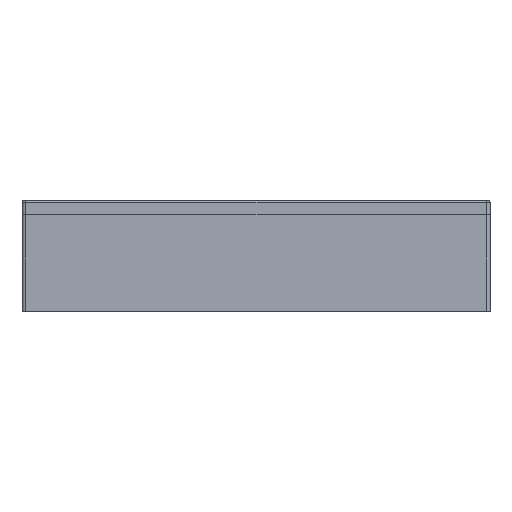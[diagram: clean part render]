
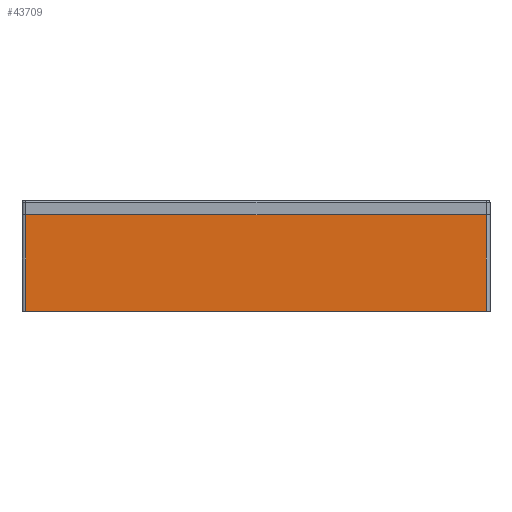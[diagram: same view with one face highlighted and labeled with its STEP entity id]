
A CAD part, left-side view. The second image highlights one B-rep face of the part: STEP entity #43709.
In plain terms, the highlighted planar face has unit normal (-1, 0, 0).
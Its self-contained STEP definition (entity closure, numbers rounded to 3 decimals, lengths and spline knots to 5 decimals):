
#2995=LINE('',#68705,#7267);
#3132=LINE('',#68996,#7404);
#3136=LINE('',#69007,#7408);
#3137=LINE('',#69008,#7409);
#7267=VECTOR('',#56080,1.);
#7404=VECTOR('',#56305,1.);
#7408=VECTOR('',#56317,1.);
#7409=VECTOR('',#56318,1.);
#16933=ORIENTED_EDGE('',*,*,#25211,.T.);
#16934=ORIENTED_EDGE('',*,*,#25217,.T.);
#16935=ORIENTED_EDGE('',*,*,#25067,.F.);
#16936=ORIENTED_EDGE('',*,*,#25218,.T.);
#25067=EDGE_CURVE('',#29969,#29970,#2995,.T.);
#25211=EDGE_CURVE('',#30080,#30079,#3132,.T.);
#25217=EDGE_CURVE('',#30079,#29970,#3136,.T.);
#25218=EDGE_CURVE('',#29969,#30080,#3137,.F.);
#29969=VERTEX_POINT('',#68704);
#29970=VERTEX_POINT('',#68706);
#30079=VERTEX_POINT('',#68995);
#30080=VERTEX_POINT('',#68997);
#35032=EDGE_LOOP('',(#16933,#16934,#16935,#16936));
#38075=FACE_BOUND('',#35032,.T.);
#40267=PLANE('',#47217);
#43709=ADVANCED_FACE('',(#38075),#40267,.T.);
#47217=AXIS2_PLACEMENT_3D('',#69006,#56315,#56316);
#56080=DIRECTION('',(0.,-1.,0.));
#56305=DIRECTION('',(0.,-1.,0.));
#56315=DIRECTION('',(-1.,0.,0.));
#56316=DIRECTION('',(0.,-1.,0.));
#56317=DIRECTION('',(0.,0.,1.));
#56318=DIRECTION('',(0.,0.,1.));
#68704=CARTESIAN_POINT('',(-0.0575,0.03651,0.01746));
#68705=CARTESIAN_POINT('',(-0.0575,-0.02892,0.01746));
#68706=CARTESIAN_POINT('',(-0.0575,-0.09434,0.01746));
#68995=CARTESIAN_POINT('',(-0.0575,-0.09434,-0.01004));
#68996=CARTESIAN_POINT('',(-0.0575,-0.02892,-0.01004));
#68997=CARTESIAN_POINT('',(-0.0575,0.03651,-0.01004));
#69006=CARTESIAN_POINT('',(-0.0575,-0.02892,-0.01004));
#69007=CARTESIAN_POINT('',(-0.0575,-0.09434,-0.01004));
#69008=CARTESIAN_POINT('',(-0.0575,0.03651,-0.01004));
